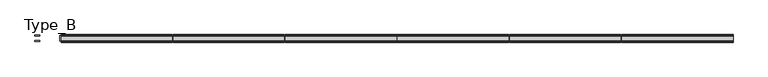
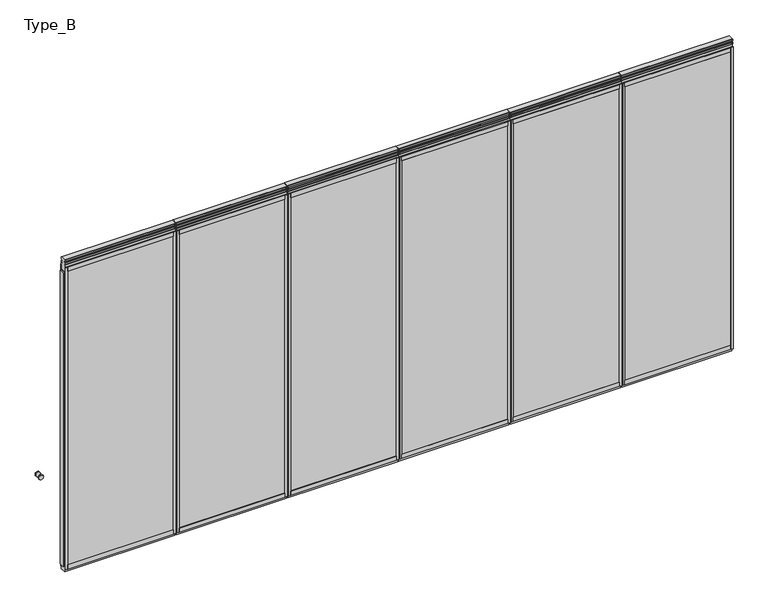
"""IFC4 building model written with IfcOpenShell, lengths in millimetres: proxy geometry, Planner Wall_ダブルガラス(Door) : Type_B."""

from ifc_helpers import new_model, si_unit, point, frame, frame_2d, origin, origin_with_axes, place, context, project, spatial, polyline, circle_curve, trimmed, segment, composite_curve, outline, extrude, source, transform, mapped, element, save


def type_b_5b592769(model_context):
    return source(origin(), model_context, "Body", "SweptSolid", [
        extrude(outline(polyline([(1052.125, -25.0), (1052.125, 25.0), (2069.25, 25.0), (2069.25, -25.0), (1052.125, -25.0)])), origin_with_axes(), (0.0, 0.0, 1.0), 65.0),
        extrude(outline(polyline([(2052.75, 25.0), (1074.125, 25.0), (1074.125, 35.0), (2052.75, 35.0), (2052.75, 25.0)])), frame((0.0, 0.0, 2935.0), z_axis=(0.0, 0.0, 1.0), x_axis=(1.0, 0.0, 0.0)), (0.0, 0.0, 1.0), 40.0),
        extrude(outline(polyline([(2052.75, 25.0), (1074.125, 25.0), (1074.125, 35.0), (2052.75, 35.0), (2052.75, 25.0)])), frame((0.0, 0.0, 25.0), z_axis=(0.0, 0.0, 1.0), x_axis=(1.0, 0.0, 0.0)), (0.0, 0.0, 1.0), 40.0),
        extrude(outline(polyline([(1092.125, -27.0), (1074.125, -27.0), (1074.125, 27.0), (1092.125, 27.0), (1092.125, -27.0)])), frame((0.0, 0.0, 65.0), z_axis=(0.0, 0.0, 1.0), x_axis=(1.0, 0.0, 0.0)), (0.0, 0.0, 1.0), 2870.0),
        extrude(outline(polyline([(2052.75, -27.0), (2034.75, -27.0), (2034.75, 27.0), (2052.75, 27.0), (2052.75, -27.0)])), frame((0.0, 0.0, 65.0), z_axis=(0.0, 0.0, 1.0), x_axis=(1.0, 0.0, 0.0)), (0.0, 0.0, 1.0), 2870.0),
        extrude(outline(polyline([(2034.75, -27.0), (1092.125, -27.0), (1092.125, 27.0), (2034.75, 27.0), (2034.75, -27.0)])), frame((0.0, 0.0, 65.0), z_axis=(0.0, 0.0, 1.0), x_axis=(1.0, 0.0, 0.0)), (0.0, 0.0, 1.0), 102.0),
        extrude(outline(polyline([(2034.75, -27.0), (1092.125, -27.0), (1092.125, 27.0), (2034.75, 27.0), (2034.75, -27.0)])), frame((0.0, 0.0, 2833.0), z_axis=(0.0, 0.0, 1.0), x_axis=(1.0, 0.0, 0.0)), (0.0, 0.0, 1.0), 102.0),
        extrude(outline(composite_curve([segment(polyline([(23.5, 3050.1000003), (26.5, 3047.1000003), (26.5, 3032.6)]), True, "CONTINUOUS"), segment(trimmed(circle_curve(frame_2d((25.0, 3032.6)), 1.5), [point((26.5, 3032.6))], [point((25.0, 3031.1))], False, "CARTESIAN"), True, "CONTINUOUS"), segment(polyline([(25.0, 3031.1), (9.0, 3031.1), (9.0, 3019.1000003), (23.5, 3019.1000003), (26.5, 3016.1000003), (26.5, 3001.5)]), True, "CONTINUOUS"), segment(trimmed(circle_curve(frame_2d((25.0, 3001.5)), 1.5), [point((26.5, 3001.5))], [point((25.0, 3000.0))], False, "CARTESIAN"), True, "CONTINUOUS"), segment(polyline([(25.0, 3000.0), (7.5, 3000.0), (7.5, 2994.5), (25.0, 2994.5), (25.0, 2935.0), (-25.0, 2935.0), (-25.0, 2994.5), (-7.5, 2994.5), (-7.5, 3000.0), (-25.0, 3000.0)]), True, "CONTINUOUS"), segment(trimmed(circle_curve(frame_2d((-25.0, 3001.5)), 1.5), [point((-25.0, 3000.0))], [point((-26.5, 3001.5))], False, "CARTESIAN"), True, "CONTINUOUS"), segment(polyline([(-26.5, 3001.5), (-26.5, 3016.1000003), (-23.5, 3019.1000003), (-9.0, 3019.1000003), (-9.0, 3031.1), (-25.0, 3031.1)]), True, "CONTINUOUS"), segment(trimmed(circle_curve(frame_2d((-25.0, 3032.6)), 1.5), [point((-25.0, 3031.1))], [point((-26.5, 3032.6))], False, "CARTESIAN"), True, "CONTINUOUS"), segment(polyline([(-26.5, 3032.6), (-26.5, 3047.1000003), (-23.5, 3050.1000003), (23.5, 3050.1000003)]), True, "CONTINUOUS")], self_intersect=False)), frame((1052.125, 0.0, 0.0), z_axis=(1.0, 0.0, 0.0), x_axis=(0.0, 1.0, 0.0)), (0.0, 0.0, 1.0), 1022.625),
        extrude(outline(polyline([(2052.75, 27.5), (1074.125, 27.5), (1074.125, 32.5), (2052.75, 32.5), (2052.75, 27.5)])), frame((0.0, 0.0, 65.0), z_axis=(0.0, 0.0, 1.0), x_axis=(1.0, 0.0, 0.0)), (0.0, 0.0, 1.0), 2870.0),
        extrude(outline(polyline([(2052.75, -32.5), (1074.125, -32.5), (1074.125, -27.5), (2052.75, -27.5), (2052.75, -32.5)])), frame((0.0, 0.0, 65.0), z_axis=(0.0, 0.0, 1.0), x_axis=(1.0, 0.0, 0.0)), (0.0, 0.0, 1.0), 2870.0),
        extrude(outline(polyline([(2052.75, -35.0), (1074.125, -35.0), (1074.125, -25.0), (2052.75, -25.0), (2052.75, -35.0)])), frame((0.0, 0.0, 2935.0), z_axis=(0.0, 0.0, 1.0), x_axis=(1.0, 0.0, 0.0)), (0.0, 0.0, 1.0), 40.0),
        extrude(outline(polyline([(2052.75, -35.0), (1074.125, -35.0), (1074.125, -25.0), (2052.75, -25.0), (2052.75, -35.0)])), frame((0.0, 0.0, 25.0), z_axis=(0.0, 0.0, 1.0), x_axis=(1.0, 0.0, 0.0)), (0.0, 0.0, 1.0), 40.0),
        extrude(outline(polyline([(1038.625, -25.0), (1038.625, 25.0), (1052.125, 25.0), (1052.125, -25.0), (1038.625, -25.0)])), frame((0.0, 0.0, 53.0), z_axis=(0.0, 0.0, 1.0), x_axis=(1.0, 0.0, 0.0)), (0.0, 0.0, 1.0), 2869.0),
        extrude(outline(polyline([(2052.75, 35.0), (2074.75, 35.0), (2074.75, 25.0), (2052.75, 25.0), (2052.75, 35.0)])), frame((0.0, 0.0, 25.0), z_axis=(0.0, 0.0, 1.0), x_axis=(1.0, 0.0, 0.0)), (0.0, 0.0, 1.0), 2950.0),
        extrude(outline(polyline([(2052.75, -35.0), (2052.75, -25.0), (2074.75, -25.0), (2074.75, -35.0), (2052.75, -35.0)])), frame((0.0, 0.0, 25.0), z_axis=(0.0, 0.0, 1.0), x_axis=(1.0, 0.0, 0.0)), (0.0, 0.0, 1.0), 2950.0),
        extrude(outline(polyline([(1052.125, -35.0), (1052.125, -25.0), (1074.125, -25.0), (1074.125, -35.0), (1052.125, -35.0)])), frame((0.0, 0.0, 25.0), z_axis=(0.0, 0.0, 1.0), x_axis=(1.0, 0.0, 0.0)), (0.0, 0.0, 1.0), 2950.0),
        extrude(outline(polyline([(1052.125, 25.0), (1052.125, 35.0), (1074.125, 35.0), (1074.125, 25.0), (1052.125, 25.0)])), frame((0.0, 0.0, 25.0), z_axis=(0.0, 0.0, 1.0), x_axis=(1.0, 0.0, 0.0)), (0.0, 0.0, 1.0), 2950.0),
        extrude(outline(polyline([(2082.75, -25.0), (2082.75, 25.0), (3099.875, 25.0), (3099.875, -25.0), (2082.75, -25.0)])), origin_with_axes(), (0.0, 0.0, 1.0), 65.0),
        extrude(outline(polyline([(3083.375, 25.0), (2104.75, 25.0), (2104.75, 35.0), (3083.375, 35.0), (3083.375, 25.0)])), frame((0.0, 0.0, 2935.0), z_axis=(0.0, 0.0, 1.0), x_axis=(1.0, 0.0, 0.0)), (0.0, 0.0, 1.0), 40.0),
        extrude(outline(polyline([(3083.375, 25.0), (2104.75, 25.0), (2104.75, 35.0), (3083.375, 35.0), (3083.375, 25.0)])), frame((0.0, 0.0, 25.0), z_axis=(0.0, 0.0, 1.0), x_axis=(1.0, 0.0, 0.0)), (0.0, 0.0, 1.0), 40.0),
        extrude(outline(polyline([(2122.75, -27.0), (2104.75, -27.0), (2104.75, 27.0), (2122.75, 27.0), (2122.75, -27.0)])), frame((0.0, 0.0, 65.0), z_axis=(0.0, 0.0, 1.0), x_axis=(1.0, 0.0, 0.0)), (0.0, 0.0, 1.0), 2870.0),
        extrude(outline(polyline([(3083.375, -27.0), (3065.375, -27.0), (3065.375, 27.0), (3083.375, 27.0), (3083.375, -27.0)])), frame((0.0, 0.0, 65.0), z_axis=(0.0, 0.0, 1.0), x_axis=(1.0, 0.0, 0.0)), (0.0, 0.0, 1.0), 2870.0),
        extrude(outline(polyline([(3065.375, -27.0), (2122.75, -27.0), (2122.75, 27.0), (3065.375, 27.0), (3065.375, -27.0)])), frame((0.0, 0.0, 65.0), z_axis=(0.0, 0.0, 1.0), x_axis=(1.0, 0.0, 0.0)), (0.0, 0.0, 1.0), 102.0),
        extrude(outline(polyline([(3065.375, -27.0), (2122.75, -27.0), (2122.75, 27.0), (3065.375, 27.0), (3065.375, -27.0)])), frame((0.0, 0.0, 2833.0), z_axis=(0.0, 0.0, 1.0), x_axis=(1.0, 0.0, 0.0)), (0.0, 0.0, 1.0), 102.0),
        extrude(outline(composite_curve([segment(polyline([(23.5, 3050.1000003), (26.5, 3047.1000003), (26.5, 3032.6)]), True, "CONTINUOUS"), segment(trimmed(circle_curve(frame_2d((25.0, 3032.6)), 1.5), [point((26.5, 3032.6))], [point((25.0, 3031.1))], False, "CARTESIAN"), True, "CONTINUOUS"), segment(polyline([(25.0, 3031.1), (9.0, 3031.1), (9.0, 3019.1000003), (23.5, 3019.1000003), (26.5, 3016.1000003), (26.5, 3001.5)]), True, "CONTINUOUS"), segment(trimmed(circle_curve(frame_2d((25.0, 3001.5)), 1.5), [point((26.5, 3001.5))], [point((25.0, 3000.0))], False, "CARTESIAN"), True, "CONTINUOUS"), segment(polyline([(25.0, 3000.0), (7.5, 3000.0), (7.5, 2994.5), (25.0, 2994.5), (25.0, 2935.0), (-25.0, 2935.0), (-25.0, 2994.5), (-7.5, 2994.5), (-7.5, 3000.0), (-25.0, 3000.0)]), True, "CONTINUOUS"), segment(trimmed(circle_curve(frame_2d((-25.0, 3001.5)), 1.5), [point((-25.0, 3000.0))], [point((-26.5, 3001.5))], False, "CARTESIAN"), True, "CONTINUOUS"), segment(polyline([(-26.5, 3001.5), (-26.5, 3016.1000003), (-23.5, 3019.1000003), (-9.0, 3019.1000003), (-9.0, 3031.1), (-25.0, 3031.1)]), True, "CONTINUOUS"), segment(trimmed(circle_curve(frame_2d((-25.0, 3032.6)), 1.5), [point((-25.0, 3031.1))], [point((-26.5, 3032.6))], False, "CARTESIAN"), True, "CONTINUOUS"), segment(polyline([(-26.5, 3032.6), (-26.5, 3047.1000003), (-23.5, 3050.1000003), (23.5, 3050.1000003)]), True, "CONTINUOUS")], self_intersect=False)), frame((2082.75, 0.0, 0.0), z_axis=(1.0, 0.0, 0.0), x_axis=(0.0, 1.0, 0.0)), (0.0, 0.0, 1.0), 1022.625),
        extrude(outline(polyline([(3083.375, 27.5), (2104.75, 27.5), (2104.75, 32.5), (3083.375, 32.5), (3083.375, 27.5)])), frame((0.0, 0.0, 65.0), z_axis=(0.0, 0.0, 1.0), x_axis=(1.0, 0.0, 0.0)), (0.0, 0.0, 1.0), 2870.0),
        extrude(outline(polyline([(3083.375, -32.5), (2104.75, -32.5), (2104.75, -27.5), (3083.375, -27.5), (3083.375, -32.5)])), frame((0.0, 0.0, 65.0), z_axis=(0.0, 0.0, 1.0), x_axis=(1.0, 0.0, 0.0)), (0.0, 0.0, 1.0), 2870.0),
        extrude(outline(polyline([(3083.375, -35.0), (2104.75, -35.0), (2104.75, -25.0), (3083.375, -25.0), (3083.375, -35.0)])), frame((0.0, 0.0, 2935.0), z_axis=(0.0, 0.0, 1.0), x_axis=(1.0, 0.0, 0.0)), (0.0, 0.0, 1.0), 40.0),
        extrude(outline(polyline([(3083.375, -35.0), (2104.75, -35.0), (2104.75, -25.0), (3083.375, -25.0), (3083.375, -35.0)])), frame((0.0, 0.0, 25.0), z_axis=(0.0, 0.0, 1.0), x_axis=(1.0, 0.0, 0.0)), (0.0, 0.0, 1.0), 40.0),
        extrude(outline(polyline([(2069.25, -25.0), (2069.25, 25.0), (2082.75, 25.0), (2082.75, -25.0), (2069.25, -25.0)])), frame((0.0, 0.0, 53.0), z_axis=(0.0, 0.0, 1.0), x_axis=(1.0, 0.0, 0.0)), (0.0, 0.0, 1.0), 2869.0),
        extrude(outline(polyline([(3083.375, 35.0), (3105.375, 35.0), (3105.375, 25.0), (3083.375, 25.0), (3083.375, 35.0)])), frame((0.0, 0.0, 25.0), z_axis=(0.0, 0.0, 1.0), x_axis=(1.0, 0.0, 0.0)), (0.0, 0.0, 1.0), 2950.0),
        extrude(outline(polyline([(3083.375, -35.0), (3083.375, -25.0), (3105.375, -25.0), (3105.375, -35.0), (3083.375, -35.0)])), frame((0.0, 0.0, 25.0), z_axis=(0.0, 0.0, 1.0), x_axis=(1.0, 0.0, 0.0)), (0.0, 0.0, 1.0), 2950.0),
        extrude(outline(polyline([(2082.75, -35.0), (2082.75, -25.0), (2104.75, -25.0), (2104.75, -35.0), (2082.75, -35.0)])), frame((0.0, 0.0, 25.0), z_axis=(0.0, 0.0, 1.0), x_axis=(1.0, 0.0, 0.0)), (0.0, 0.0, 1.0), 2950.0),
        extrude(outline(polyline([(2082.75, 25.0), (2082.75, 35.0), (2104.75, 35.0), (2104.75, 25.0), (2082.75, 25.0)])), frame((0.0, 0.0, 25.0), z_axis=(0.0, 0.0, 1.0), x_axis=(1.0, 0.0, 0.0)), (0.0, 0.0, 1.0), 2950.0),
        extrude(outline(polyline([(3113.375, -25.0), (3113.375, 25.0), (4130.5, 25.0), (4130.5, -25.0), (3113.375, -25.0)])), origin_with_axes(), (0.0, 0.0, 1.0), 65.0),
        extrude(outline(polyline([(4114.0, 25.0), (3135.375, 25.0), (3135.375, 35.0), (4114.0, 35.0), (4114.0, 25.0)])), frame((0.0, 0.0, 2935.0), z_axis=(0.0, 0.0, 1.0), x_axis=(1.0, 0.0, 0.0)), (0.0, 0.0, 1.0), 40.0),
        extrude(outline(polyline([(4114.0, 25.0), (3135.375, 25.0), (3135.375, 35.0), (4114.0, 35.0), (4114.0, 25.0)])), frame((0.0, 0.0, 25.0), z_axis=(0.0, 0.0, 1.0), x_axis=(1.0, 0.0, 0.0)), (0.0, 0.0, 1.0), 40.0),
        extrude(outline(polyline([(3153.375, -27.0), (3135.375, -27.0), (3135.375, 27.0), (3153.375, 27.0), (3153.375, -27.0)])), frame((0.0, 0.0, 65.0), z_axis=(0.0, 0.0, 1.0), x_axis=(1.0, 0.0, 0.0)), (0.0, 0.0, 1.0), 2870.0),
        extrude(outline(polyline([(4114.0, -27.0), (4096.0, -27.0), (4096.0, 27.0), (4114.0, 27.0), (4114.0, -27.0)])), frame((0.0, 0.0, 65.0), z_axis=(0.0, 0.0, 1.0), x_axis=(1.0, 0.0, 0.0)), (0.0, 0.0, 1.0), 2870.0),
        extrude(outline(polyline([(4096.0, -27.0), (3153.375, -27.0), (3153.375, 27.0), (4096.0, 27.0), (4096.0, -27.0)])), frame((0.0, 0.0, 65.0), z_axis=(0.0, 0.0, 1.0), x_axis=(1.0, 0.0, 0.0)), (0.0, 0.0, 1.0), 102.0),
        extrude(outline(polyline([(4096.0, -27.0), (3153.375, -27.0), (3153.375, 27.0), (4096.0, 27.0), (4096.0, -27.0)])), frame((0.0, 0.0, 2833.0), z_axis=(0.0, 0.0, 1.0), x_axis=(1.0, 0.0, 0.0)), (0.0, 0.0, 1.0), 102.0),
        extrude(outline(composite_curve([segment(polyline([(23.5, 3050.1000003), (26.5, 3047.1000003), (26.5, 3032.6)]), True, "CONTINUOUS"), segment(trimmed(circle_curve(frame_2d((25.0, 3032.6)), 1.5), [point((26.5, 3032.6))], [point((25.0, 3031.1))], False, "CARTESIAN"), True, "CONTINUOUS"), segment(polyline([(25.0, 3031.1), (9.0, 3031.1), (9.0, 3019.1000003), (23.5, 3019.1000003), (26.5, 3016.1000003), (26.5, 3001.5)]), True, "CONTINUOUS"), segment(trimmed(circle_curve(frame_2d((25.0, 3001.5)), 1.5), [point((26.5, 3001.5))], [point((25.0, 3000.0))], False, "CARTESIAN"), True, "CONTINUOUS"), segment(polyline([(25.0, 3000.0), (7.5, 3000.0), (7.5, 2994.5), (25.0, 2994.5), (25.0, 2935.0), (-25.0, 2935.0), (-25.0, 2994.5), (-7.5, 2994.5), (-7.5, 3000.0), (-25.0, 3000.0)]), True, "CONTINUOUS"), segment(trimmed(circle_curve(frame_2d((-25.0, 3001.5)), 1.5), [point((-25.0, 3000.0))], [point((-26.5, 3001.5))], False, "CARTESIAN"), True, "CONTINUOUS"), segment(polyline([(-26.5, 3001.5), (-26.5, 3016.1000003), (-23.5, 3019.1000003), (-9.0, 3019.1000003), (-9.0, 3031.1), (-25.0, 3031.1)]), True, "CONTINUOUS"), segment(trimmed(circle_curve(frame_2d((-25.0, 3032.6)), 1.5), [point((-25.0, 3031.1))], [point((-26.5, 3032.6))], False, "CARTESIAN"), True, "CONTINUOUS"), segment(polyline([(-26.5, 3032.6), (-26.5, 3047.1000003), (-23.5, 3050.1000003), (23.5, 3050.1000003)]), True, "CONTINUOUS")], self_intersect=False)), frame((3113.375, 0.0, 0.0), z_axis=(1.0, 0.0, 0.0), x_axis=(0.0, 1.0, 0.0)), (0.0, 0.0, 1.0), 1022.625),
        extrude(outline(polyline([(4114.0, 27.5), (3135.375, 27.5), (3135.375, 32.5), (4114.0, 32.5), (4114.0, 27.5)])), frame((0.0, 0.0, 65.0), z_axis=(0.0, 0.0, 1.0), x_axis=(1.0, 0.0, 0.0)), (0.0, 0.0, 1.0), 2870.0),
        extrude(outline(polyline([(4114.0, -32.5), (3135.375, -32.5), (3135.375, -27.5), (4114.0, -27.5), (4114.0, -32.5)])), frame((0.0, 0.0, 65.0), z_axis=(0.0, 0.0, 1.0), x_axis=(1.0, 0.0, 0.0)), (0.0, 0.0, 1.0), 2870.0),
        extrude(outline(polyline([(4114.0, -35.0), (3135.375, -35.0), (3135.375, -25.0), (4114.0, -25.0), (4114.0, -35.0)])), frame((0.0, 0.0, 2935.0), z_axis=(0.0, 0.0, 1.0), x_axis=(1.0, 0.0, 0.0)), (0.0, 0.0, 1.0), 40.0),
        extrude(outline(polyline([(4114.0, -35.0), (3135.375, -35.0), (3135.375, -25.0), (4114.0, -25.0), (4114.0, -35.0)])), frame((0.0, 0.0, 25.0), z_axis=(0.0, 0.0, 1.0), x_axis=(1.0, 0.0, 0.0)), (0.0, 0.0, 1.0), 40.0),
        extrude(outline(polyline([(3099.875, -25.0), (3099.875, 25.0), (3113.375, 25.0), (3113.375, -25.0), (3099.875, -25.0)])), frame((0.0, 0.0, 53.0), z_axis=(0.0, 0.0, 1.0), x_axis=(1.0, 0.0, 0.0)), (0.0, 0.0, 1.0), 2869.0),
        extrude(outline(polyline([(4114.0, 35.0), (4136.0, 35.0), (4136.0, 25.0), (4114.0, 25.0), (4114.0, 35.0)])), frame((0.0, 0.0, 25.0), z_axis=(0.0, 0.0, 1.0), x_axis=(1.0, 0.0, 0.0)), (0.0, 0.0, 1.0), 2950.0),
        extrude(outline(polyline([(4114.0, -35.0), (4114.0, -25.0), (4136.0, -25.0), (4136.0, -35.0), (4114.0, -35.0)])), frame((0.0, 0.0, 25.0), z_axis=(0.0, 0.0, 1.0), x_axis=(1.0, 0.0, 0.0)), (0.0, 0.0, 1.0), 2950.0),
        extrude(outline(polyline([(3113.375, -35.0), (3113.375, -25.0), (3135.375, -25.0), (3135.375, -35.0), (3113.375, -35.0)])), frame((0.0, 0.0, 25.0), z_axis=(0.0, 0.0, 1.0), x_axis=(1.0, 0.0, 0.0)), (0.0, 0.0, 1.0), 2950.0),
        extrude(outline(polyline([(3113.375, 25.0), (3113.375, 35.0), (3135.375, 35.0), (3135.375, 25.0), (3113.375, 25.0)])), frame((0.0, 0.0, 25.0), z_axis=(0.0, 0.0, 1.0), x_axis=(1.0, 0.0, 0.0)), (0.0, 0.0, 1.0), 2950.0),
        extrude(outline(polyline([(4144.0, -25.0), (4144.0, 25.0), (5161.125, 25.0), (5161.125, -25.0), (4144.0, -25.0)])), origin_with_axes(), (0.0, 0.0, 1.0), 65.0),
        extrude(outline(polyline([(5144.625, 25.0), (4166.0, 25.0), (4166.0, 35.0), (5144.625, 35.0), (5144.625, 25.0)])), frame((0.0, 0.0, 2935.0), z_axis=(0.0, 0.0, 1.0), x_axis=(1.0, 0.0, 0.0)), (0.0, 0.0, 1.0), 40.0),
        extrude(outline(polyline([(5144.625, 25.0), (4166.0, 25.0), (4166.0, 35.0), (5144.625, 35.0), (5144.625, 25.0)])), frame((0.0, 0.0, 25.0), z_axis=(0.0, 0.0, 1.0), x_axis=(1.0, 0.0, 0.0)), (0.0, 0.0, 1.0), 40.0),
        extrude(outline(polyline([(4184.0, -27.0), (4166.0, -27.0), (4166.0, 27.0), (4184.0, 27.0), (4184.0, -27.0)])), frame((0.0, 0.0, 65.0), z_axis=(0.0, 0.0, 1.0), x_axis=(1.0, 0.0, 0.0)), (0.0, 0.0, 1.0), 2870.0),
        extrude(outline(polyline([(5144.625, -27.0), (5126.625, -27.0), (5126.625, 27.0), (5144.625, 27.0), (5144.625, -27.0)])), frame((0.0, 0.0, 65.0), z_axis=(0.0, 0.0, 1.0), x_axis=(1.0, 0.0, 0.0)), (0.0, 0.0, 1.0), 2870.0),
        extrude(outline(polyline([(5126.625, -27.0), (4184.0, -27.0), (4184.0, 27.0), (5126.625, 27.0), (5126.625, -27.0)])), frame((0.0, 0.0, 65.0), z_axis=(0.0, 0.0, 1.0), x_axis=(1.0, 0.0, 0.0)), (0.0, 0.0, 1.0), 102.0),
        extrude(outline(polyline([(5126.625, -27.0), (4184.0, -27.0), (4184.0, 27.0), (5126.625, 27.0), (5126.625, -27.0)])), frame((0.0, 0.0, 2833.0), z_axis=(0.0, 0.0, 1.0), x_axis=(1.0, 0.0, 0.0)), (0.0, 0.0, 1.0), 102.0),
        extrude(outline(composite_curve([segment(polyline([(23.5, 3050.1000003), (26.5, 3047.1000003), (26.5, 3032.6)]), True, "CONTINUOUS"), segment(trimmed(circle_curve(frame_2d((25.0, 3032.6)), 1.5), [point((26.5, 3032.6))], [point((25.0, 3031.1))], False, "CARTESIAN"), True, "CONTINUOUS"), segment(polyline([(25.0, 3031.1), (9.0, 3031.1), (9.0, 3019.1000003), (23.5, 3019.1000003), (26.5, 3016.1000003), (26.5, 3001.5)]), True, "CONTINUOUS"), segment(trimmed(circle_curve(frame_2d((25.0, 3001.5)), 1.5), [point((26.5, 3001.5))], [point((25.0, 3000.0))], False, "CARTESIAN"), True, "CONTINUOUS"), segment(polyline([(25.0, 3000.0), (7.5, 3000.0), (7.5, 2994.5), (25.0, 2994.5), (25.0, 2935.0), (-25.0, 2935.0), (-25.0, 2994.5), (-7.5, 2994.5), (-7.5, 3000.0), (-25.0, 3000.0)]), True, "CONTINUOUS"), segment(trimmed(circle_curve(frame_2d((-25.0, 3001.5)), 1.5), [point((-25.0, 3000.0))], [point((-26.5, 3001.5))], False, "CARTESIAN"), True, "CONTINUOUS"), segment(polyline([(-26.5, 3001.5), (-26.5, 3016.1000003), (-23.5, 3019.1000003), (-9.0, 3019.1000003), (-9.0, 3031.1), (-25.0, 3031.1)]), True, "CONTINUOUS"), segment(trimmed(circle_curve(frame_2d((-25.0, 3032.6)), 1.5), [point((-25.0, 3031.1))], [point((-26.5, 3032.6))], False, "CARTESIAN"), True, "CONTINUOUS"), segment(polyline([(-26.5, 3032.6), (-26.5, 3047.1000003), (-23.5, 3050.1000003), (23.5, 3050.1000003)]), True, "CONTINUOUS")], self_intersect=False)), frame((4144.0, 0.0, 0.0), z_axis=(1.0, 0.0, 0.0), x_axis=(0.0, 1.0, 0.0)), (0.0, 0.0, 1.0), 1022.625),
        extrude(outline(polyline([(5144.625, 27.5), (4166.0, 27.5), (4166.0, 32.5), (5144.625, 32.5), (5144.625, 27.5)])), frame((0.0, 0.0, 65.0), z_axis=(0.0, 0.0, 1.0), x_axis=(1.0, 0.0, 0.0)), (0.0, 0.0, 1.0), 2870.0),
        extrude(outline(polyline([(5144.625, -32.5), (4166.0, -32.5), (4166.0, -27.5), (5144.625, -27.5), (5144.625, -32.5)])), frame((0.0, 0.0, 65.0), z_axis=(0.0, 0.0, 1.0), x_axis=(1.0, 0.0, 0.0)), (0.0, 0.0, 1.0), 2870.0),
        extrude(outline(polyline([(5144.625, -35.0), (4166.0, -35.0), (4166.0, -25.0), (5144.625, -25.0), (5144.625, -35.0)])), frame((0.0, 0.0, 2935.0), z_axis=(0.0, 0.0, 1.0), x_axis=(1.0, 0.0, 0.0)), (0.0, 0.0, 1.0), 40.0),
        extrude(outline(polyline([(5144.625, -35.0), (4166.0, -35.0), (4166.0, -25.0), (5144.625, -25.0), (5144.625, -35.0)])), frame((0.0, 0.0, 25.0), z_axis=(0.0, 0.0, 1.0), x_axis=(1.0, 0.0, 0.0)), (0.0, 0.0, 1.0), 40.0),
        extrude(outline(polyline([(4130.5, -25.0), (4130.5, 25.0), (4144.0, 25.0), (4144.0, -25.0), (4130.5, -25.0)])), frame((0.0, 0.0, 53.0), z_axis=(0.0, 0.0, 1.0), x_axis=(1.0, 0.0, 0.0)), (0.0, 0.0, 1.0), 2869.0),
        extrude(outline(polyline([(5144.625, 35.0), (5166.625, 35.0), (5166.625, 25.0), (5144.625, 25.0), (5144.625, 35.0)])), frame((0.0, 0.0, 25.0), z_axis=(0.0, 0.0, 1.0), x_axis=(1.0, 0.0, 0.0)), (0.0, 0.0, 1.0), 2950.0),
        extrude(outline(polyline([(5144.625, -35.0), (5144.625, -25.0), (5166.625, -25.0), (5166.625, -35.0), (5144.625, -35.0)])), frame((0.0, 0.0, 25.0), z_axis=(0.0, 0.0, 1.0), x_axis=(1.0, 0.0, 0.0)), (0.0, 0.0, 1.0), 2950.0),
        extrude(outline(polyline([(4144.0, -35.0), (4144.0, -25.0), (4166.0, -25.0), (4166.0, -35.0), (4144.0, -35.0)])), frame((0.0, 0.0, 25.0), z_axis=(0.0, 0.0, 1.0), x_axis=(1.0, 0.0, 0.0)), (0.0, 0.0, 1.0), 2950.0),
        extrude(outline(polyline([(4144.0, 25.0), (4144.0, 35.0), (4166.0, 35.0), (4166.0, 25.0), (4144.0, 25.0)])), frame((0.0, 0.0, 25.0), z_axis=(0.0, 0.0, 1.0), x_axis=(1.0, 0.0, 0.0)), (0.0, 0.0, 1.0), 2950.0),
        extrude(outline(polyline([(5174.625, -25.0), (5174.625, 25.0), (6191.75, 25.0), (6191.75, -25.0), (5174.625, -25.0)])), origin_with_axes(), (0.0, 0.0, 1.0), 65.0),
        extrude(outline(polyline([(6175.25, 25.0), (5196.625, 25.0), (5196.625, 35.0), (6175.25, 35.0), (6175.25, 25.0)])), frame((0.0, 0.0, 2935.0), z_axis=(0.0, 0.0, 1.0), x_axis=(1.0, 0.0, 0.0)), (0.0, 0.0, 1.0), 40.0),
        extrude(outline(polyline([(6175.25, 25.0), (5196.625, 25.0), (5196.625, 35.0), (6175.25, 35.0), (6175.25, 25.0)])), frame((0.0, 0.0, 25.0), z_axis=(0.0, 0.0, 1.0), x_axis=(1.0, 0.0, 0.0)), (0.0, 0.0, 1.0), 40.0),
        extrude(outline(polyline([(5214.625, -27.0), (5196.625, -27.0), (5196.625, 27.0), (5214.625, 27.0), (5214.625, -27.0)])), frame((0.0, 0.0, 65.0), z_axis=(0.0, 0.0, 1.0), x_axis=(1.0, 0.0, 0.0)), (0.0, 0.0, 1.0), 2870.0),
        extrude(outline(polyline([(6175.25, -27.0), (6157.25, -27.0), (6157.25, 27.0), (6175.25, 27.0), (6175.25, -27.0)])), frame((0.0, 0.0, 65.0), z_axis=(0.0, 0.0, 1.0), x_axis=(1.0, 0.0, 0.0)), (0.0, 0.0, 1.0), 2870.0),
        extrude(outline(polyline([(6157.25, -27.0), (5214.625, -27.0), (5214.625, 27.0), (6157.25, 27.0), (6157.25, -27.0)])), frame((0.0, 0.0, 65.0), z_axis=(0.0, 0.0, 1.0), x_axis=(1.0, 0.0, 0.0)), (0.0, 0.0, 1.0), 102.0),
        extrude(outline(polyline([(6157.25, -27.0), (5214.625, -27.0), (5214.625, 27.0), (6157.25, 27.0), (6157.25, -27.0)])), frame((0.0, 0.0, 2833.0), z_axis=(0.0, 0.0, 1.0), x_axis=(1.0, 0.0, 0.0)), (0.0, 0.0, 1.0), 102.0),
        extrude(outline(composite_curve([segment(polyline([(23.5, 3050.1000003), (26.5, 3047.1000003), (26.5, 3032.6)]), True, "CONTINUOUS"), segment(trimmed(circle_curve(frame_2d((25.0, 3032.6)), 1.5), [point((26.5, 3032.6))], [point((25.0, 3031.1))], False, "CARTESIAN"), True, "CONTINUOUS"), segment(polyline([(25.0, 3031.1), (9.0, 3031.1), (9.0, 3019.1000003), (23.5, 3019.1000003), (26.5, 3016.1000003), (26.5, 3001.5)]), True, "CONTINUOUS"), segment(trimmed(circle_curve(frame_2d((25.0, 3001.5)), 1.5), [point((26.5, 3001.5))], [point((25.0, 3000.0))], False, "CARTESIAN"), True, "CONTINUOUS"), segment(polyline([(25.0, 3000.0), (7.5, 3000.0), (7.5, 2994.5), (25.0, 2994.5), (25.0, 2935.0), (-25.0, 2935.0), (-25.0, 2994.5), (-7.5, 2994.5), (-7.5, 3000.0), (-25.0, 3000.0)]), True, "CONTINUOUS"), segment(trimmed(circle_curve(frame_2d((-25.0, 3001.5)), 1.5), [point((-25.0, 3000.0))], [point((-26.5, 3001.5))], False, "CARTESIAN"), True, "CONTINUOUS"), segment(polyline([(-26.5, 3001.5), (-26.5, 3016.1000003), (-23.5, 3019.1000003), (-9.0, 3019.1000003), (-9.0, 3031.1), (-25.0, 3031.1)]), True, "CONTINUOUS"), segment(trimmed(circle_curve(frame_2d((-25.0, 3032.6)), 1.5), [point((-25.0, 3031.1))], [point((-26.5, 3032.6))], False, "CARTESIAN"), True, "CONTINUOUS"), segment(polyline([(-26.5, 3032.6), (-26.5, 3047.1000003), (-23.5, 3050.1000003), (23.5, 3050.1000003)]), True, "CONTINUOUS")], self_intersect=False)), frame((5174.625, 0.0, 0.0), z_axis=(1.0, 0.0, 0.0), x_axis=(0.0, 1.0, 0.0)), (0.0, 0.0, 1.0), 1022.625),
        extrude(outline(polyline([(6175.25, 27.5), (5196.625, 27.5), (5196.625, 32.5), (6175.25, 32.5), (6175.25, 27.5)])), frame((0.0, 0.0, 65.0), z_axis=(0.0, 0.0, 1.0), x_axis=(1.0, 0.0, 0.0)), (0.0, 0.0, 1.0), 2870.0),
        extrude(outline(polyline([(6175.25, -32.5), (5196.625, -32.5), (5196.625, -27.5), (6175.25, -27.5), (6175.25, -32.5)])), frame((0.0, 0.0, 65.0), z_axis=(0.0, 0.0, 1.0), x_axis=(1.0, 0.0, 0.0)), (0.0, 0.0, 1.0), 2870.0),
        extrude(outline(polyline([(6175.25, -35.0), (5196.625, -35.0), (5196.625, -25.0), (6175.25, -25.0), (6175.25, -35.0)])), frame((0.0, 0.0, 2935.0), z_axis=(0.0, 0.0, 1.0), x_axis=(1.0, 0.0, 0.0)), (0.0, 0.0, 1.0), 40.0),
        extrude(outline(polyline([(6175.25, -35.0), (5196.625, -35.0), (5196.625, -25.0), (6175.25, -25.0), (6175.25, -35.0)])), frame((0.0, 0.0, 25.0), z_axis=(0.0, 0.0, 1.0), x_axis=(1.0, 0.0, 0.0)), (0.0, 0.0, 1.0), 40.0),
        extrude(outline(polyline([(5161.125, -25.0), (5161.125, 25.0), (5174.625, 25.0), (5174.625, -25.0), (5161.125, -25.0)])), frame((0.0, 0.0, 53.0), z_axis=(0.0, 0.0, 1.0), x_axis=(1.0, 0.0, 0.0)), (0.0, 0.0, 1.0), 2869.0),
        extrude(outline(polyline([(6175.25, 35.0), (6197.25, 35.0), (6197.25, 25.0), (6175.25, 25.0), (6175.25, 35.0)])), frame((0.0, 0.0, 25.0), z_axis=(0.0, 0.0, 1.0), x_axis=(1.0, 0.0, 0.0)), (0.0, 0.0, 1.0), 2950.0),
        extrude(outline(polyline([(6175.25, -35.0), (6175.25, -25.0), (6197.25, -25.0), (6197.25, -35.0), (6175.25, -35.0)])), frame((0.0, 0.0, 25.0), z_axis=(0.0, 0.0, 1.0), x_axis=(1.0, 0.0, 0.0)), (0.0, 0.0, 1.0), 2950.0),
        extrude(outline(polyline([(5174.625, -35.0), (5174.625, -25.0), (5196.625, -25.0), (5196.625, -35.0), (5174.625, -35.0)])), frame((0.0, 0.0, 25.0), z_axis=(0.0, 0.0, 1.0), x_axis=(1.0, 0.0, 0.0)), (0.0, 0.0, 1.0), 2950.0),
        extrude(outline(polyline([(5174.625, 25.0), (5174.625, 35.0), (5196.625, 35.0), (5196.625, 25.0), (5174.625, 25.0)])), frame((0.0, 0.0, 25.0), z_axis=(0.0, 0.0, 1.0), x_axis=(1.0, 0.0, 0.0)), (0.0, 0.0, 1.0), 2950.0),
        extrude(outline(polyline([(6205.25, -25.0), (6205.25, 25.0), (7222.375, 25.0), (7222.375, -25.0), (6205.25, -25.0)])), origin_with_axes(), (0.0, 0.0, 1.0), 65.0),
        extrude(outline(polyline([(7205.875, 25.0), (6227.25, 25.0), (6227.25, 35.0), (7205.875, 35.0), (7205.875, 25.0)])), frame((0.0, 0.0, 2935.0), z_axis=(0.0, 0.0, 1.0), x_axis=(1.0, 0.0, 0.0)), (0.0, 0.0, 1.0), 40.0),
        extrude(outline(polyline([(7205.875, 25.0), (6227.25, 25.0), (6227.25, 35.0), (7205.875, 35.0), (7205.875, 25.0)])), frame((0.0, 0.0, 25.0), z_axis=(0.0, 0.0, 1.0), x_axis=(1.0, 0.0, 0.0)), (0.0, 0.0, 1.0), 40.0),
        extrude(outline(polyline([(6245.25, -27.0), (6227.25, -27.0), (6227.25, 27.0), (6245.25, 27.0), (6245.25, -27.0)])), frame((0.0, 0.0, 65.0), z_axis=(0.0, 0.0, 1.0), x_axis=(1.0, 0.0, 0.0)), (0.0, 0.0, 1.0), 2870.0),
        extrude(outline(polyline([(7205.875, -27.0), (7187.875, -27.0), (7187.875, 27.0), (7205.875, 27.0), (7205.875, -27.0)])), frame((0.0, 0.0, 65.0), z_axis=(0.0, 0.0, 1.0), x_axis=(1.0, 0.0, 0.0)), (0.0, 0.0, 1.0), 2870.0),
        extrude(outline(polyline([(7187.875, -27.0), (6245.25, -27.0), (6245.25, 27.0), (7187.875, 27.0), (7187.875, -27.0)])), frame((0.0, 0.0, 65.0), z_axis=(0.0, 0.0, 1.0), x_axis=(1.0, 0.0, 0.0)), (0.0, 0.0, 1.0), 102.0),
        extrude(outline(polyline([(7187.875, -27.0), (6245.25, -27.0), (6245.25, 27.0), (7187.875, 27.0), (7187.875, -27.0)])), frame((0.0, 0.0, 2833.0), z_axis=(0.0, 0.0, 1.0), x_axis=(1.0, 0.0, 0.0)), (0.0, 0.0, 1.0), 102.0),
        extrude(outline(composite_curve([segment(polyline([(23.5, 3050.1000003), (26.5, 3047.1000003), (26.5, 3032.6)]), True, "CONTINUOUS"), segment(trimmed(circle_curve(frame_2d((25.0, 3032.6)), 1.5), [point((26.5, 3032.6))], [point((25.0, 3031.1))], False, "CARTESIAN"), True, "CONTINUOUS"), segment(polyline([(25.0, 3031.1), (9.0, 3031.1), (9.0, 3019.1000003), (23.5, 3019.1000003), (26.5, 3016.1000003), (26.5, 3001.5)]), True, "CONTINUOUS"), segment(trimmed(circle_curve(frame_2d((25.0, 3001.5)), 1.5), [point((26.5, 3001.5))], [point((25.0, 3000.0))], False, "CARTESIAN"), True, "CONTINUOUS"), segment(polyline([(25.0, 3000.0), (7.5, 3000.0), (7.5, 2994.5), (25.0, 2994.5), (25.0, 2935.0), (-25.0, 2935.0), (-25.0, 2994.5), (-7.5, 2994.5), (-7.5, 3000.0), (-25.0, 3000.0)]), True, "CONTINUOUS"), segment(trimmed(circle_curve(frame_2d((-25.0, 3001.5)), 1.5), [point((-25.0, 3000.0))], [point((-26.5, 3001.5))], False, "CARTESIAN"), True, "CONTINUOUS"), segment(polyline([(-26.5, 3001.5), (-26.5, 3016.1000003), (-23.5, 3019.1000003), (-9.0, 3019.1000003), (-9.0, 3031.1), (-25.0, 3031.1)]), True, "CONTINUOUS"), segment(trimmed(circle_curve(frame_2d((-25.0, 3032.6)), 1.5), [point((-25.0, 3031.1))], [point((-26.5, 3032.6))], False, "CARTESIAN"), True, "CONTINUOUS"), segment(polyline([(-26.5, 3032.6), (-26.5, 3047.1000003), (-23.5, 3050.1000003), (23.5, 3050.1000003)]), True, "CONTINUOUS")], self_intersect=False)), frame((6205.25, 0.0, 0.0), z_axis=(1.0, 0.0, 0.0), x_axis=(0.0, 1.0, 0.0)), (0.0, 0.0, 1.0), 1022.625),
        extrude(outline(polyline([(7205.875, 27.5), (6227.25, 27.5), (6227.25, 32.5), (7205.875, 32.5), (7205.875, 27.5)])), frame((0.0, 0.0, 65.0), z_axis=(0.0, 0.0, 1.0), x_axis=(1.0, 0.0, 0.0)), (0.0, 0.0, 1.0), 2870.0),
        extrude(outline(polyline([(7205.875, -32.5), (6227.25, -32.5), (6227.25, -27.5), (7205.875, -27.5), (7205.875, -32.5)])), frame((0.0, 0.0, 65.0), z_axis=(0.0, 0.0, 1.0), x_axis=(1.0, 0.0, 0.0)), (0.0, 0.0, 1.0), 2870.0),
        extrude(outline(polyline([(7205.875, -35.0), (6227.25, -35.0), (6227.25, -25.0), (7205.875, -25.0), (7205.875, -35.0)])), frame((0.0, 0.0, 2935.0), z_axis=(0.0, 0.0, 1.0), x_axis=(1.0, 0.0, 0.0)), (0.0, 0.0, 1.0), 40.0),
        extrude(outline(polyline([(7205.875, -35.0), (6227.25, -35.0), (6227.25, -25.0), (7205.875, -25.0), (7205.875, -35.0)])), frame((0.0, 0.0, 25.0), z_axis=(0.0, 0.0, 1.0), x_axis=(1.0, 0.0, 0.0)), (0.0, 0.0, 1.0), 40.0),
        extrude(outline(polyline([(6191.75, -25.0), (6191.75, 25.0), (6205.25, 25.0), (6205.25, -25.0), (6191.75, -25.0)])), frame((0.0, 0.0, 53.0), z_axis=(0.0, 0.0, 1.0), x_axis=(1.0, 0.0, 0.0)), (0.0, 0.0, 1.0), 2869.0),
        extrude(outline(polyline([(7205.875, 35.0), (7227.875, 35.0), (7227.875, 25.0), (7205.875, 25.0), (7205.875, 35.0)])), frame((0.0, 0.0, 25.0), z_axis=(0.0, 0.0, 1.0), x_axis=(1.0, 0.0, 0.0)), (0.0, 0.0, 1.0), 2950.0),
        extrude(outline(polyline([(7205.875, -35.0), (7205.875, -25.0), (7227.875, -25.0), (7227.875, -35.0), (7205.875, -35.0)])), frame((0.0, 0.0, 25.0), z_axis=(0.0, 0.0, 1.0), x_axis=(1.0, 0.0, 0.0)), (0.0, 0.0, 1.0), 2950.0),
        extrude(outline(polyline([(6205.25, -35.0), (6205.25, -25.0), (6227.25, -25.0), (6227.25, -35.0), (6205.25, -35.0)])), frame((0.0, 0.0, 25.0), z_axis=(0.0, 0.0, 1.0), x_axis=(1.0, 0.0, 0.0)), (0.0, 0.0, 1.0), 2950.0),
        extrude(outline(polyline([(6205.25, 25.0), (6205.25, 35.0), (6227.25, 35.0), (6227.25, 25.0), (6205.25, 25.0)])), frame((0.0, 0.0, 25.0), z_axis=(0.0, 0.0, 1.0), x_axis=(1.0, 0.0, 0.0)), (0.0, 0.0, 1.0), 2950.0),
        extrude(outline(composite_curve([segment(trimmed(circle_curve(frame_2d((1000.0, 834.125)), 22.0), [point((1000.0, 856.125))], [point((1000.0, 812.125))], False, "CARTESIAN"), True, "CONTINUOUS"), segment(trimmed(circle_curve(frame_2d((1000.0, 834.125)), 22.0), [point((1000.0, 812.125))], [point((1000.0, 856.125))], False, "CARTESIAN"), True, "CONTINUOUS")], self_intersect=False)), frame((0.0, 23.5, 0.0), z_axis=(0.0, 1.0, 0.0), x_axis=(0.0, 0.0, 1.0)), (0.0, 0.0, 1.0), 10.0),
        extrude(outline(composite_curve([segment(trimmed(circle_curve(frame_2d((1000.0, 834.125)), 22.0), [point((1000.0, 856.125))], [point((1000.0, 812.125))], False, "CARTESIAN"), True, "CONTINUOUS"), segment(trimmed(circle_curve(frame_2d((1000.0, 834.125)), 22.0), [point((1000.0, 812.125))], [point((1000.0, 856.125))], False, "CARTESIAN"), True, "CONTINUOUS")], self_intersect=False)), frame((0.0, -26.5, 0.0), z_axis=(0.0, 1.0, 0.0), x_axis=(0.0, 0.0, 1.0)), (0.0, 0.0, 1.0), 10.0),
    ])


if __name__ == "__main__":
    model = new_model("IFC4")
    model_context = context("Model", 3, world=origin())
    ifc_project = project(units=[si_unit("LENGTHUNIT", "METRE", prefix="MILLI")], contexts=[model_context])
    site = spatial("IfcSite", under=ifc_project)
    building = spatial("IfcBuilding", under=site)
    placement = place(None, origin())
    type_b_shape = type_b_5b592769(model_context)
    element("IfcBuildingElementProxy", 1, Name="Planner Wall_ダブルガラス(Door) : Type_B", ObjectType="Planner Wall_ダブルガラス(Door) : Type_B", at=placement, inside=building, context=model_context, shape_type="MappedRepresentation", body=[
        mapped(type_b_shape, transform((0.0, 0.0, 0.0), x_axis=(1.0, 0.0, 0.0), y_axis=(0.0, 1.0, 0.0), z_axis=(0.0, 0.0, 1.0))),
    ])
    save(model, "model.ifc")
